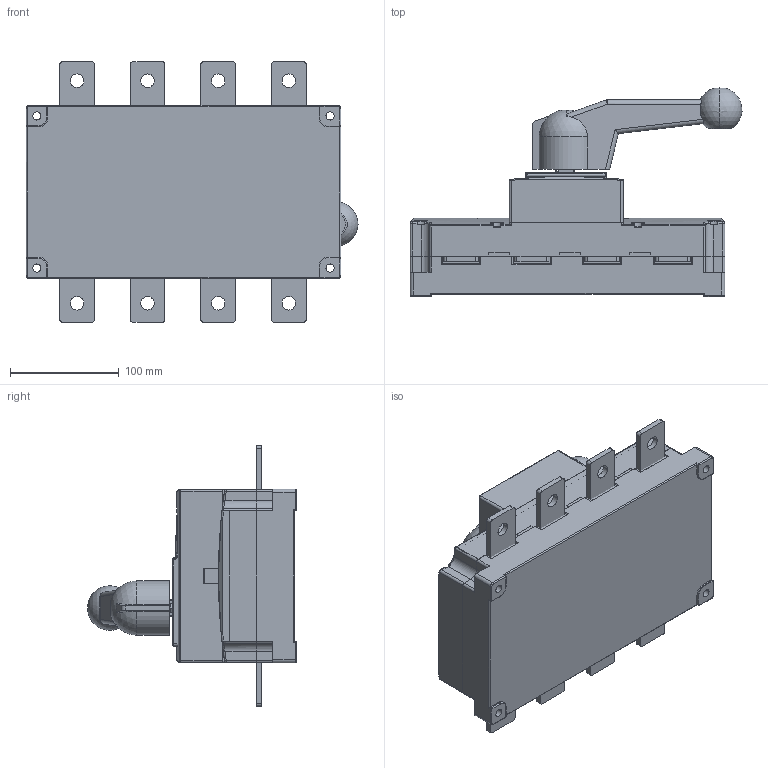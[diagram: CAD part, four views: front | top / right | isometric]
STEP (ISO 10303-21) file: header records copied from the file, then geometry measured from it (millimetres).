
FILE_DESCRIPTION((''),'2;1');
FILE_NAME('NH40-315-4_4P_202403_ASM','2024-04-16T',('zhuanghy'),(''),'CREO PARAMETRIC BY PTC INC, 2018070','CREO PARAMETRIC BY PTC INC, 2018070','');
FILE_SCHEMA(('AUTOMOTIVE_DESIGN { 1 0 10303 214 1 1 1 1 }'));
Length unit declared in the file: millimetre
Products named in the file (14): NH40-630BOCHA_97_1_1_2_3; ASM0004_ASM_3_ASM_ASM_1_1_2_ASM; NH40-315-3_ASM_ASM_1_1_2_ASM; NH40-315_630_202107__1_1_2_3; PRT2015_72_1_1; NH40-630-4-064_46_1_1; NH40-630-310_38_1_1; PRT0047_1_1; PRT0048_1_1; ASM0001_ASM_1_ASM_ASM_1_1_ASM; NH40-315-4_ASM_ASM_1_1_ASM; NH40-315-4_4P_201805_ASM_1_ASM; NH40-315-3_3P_201805_ASM_1_1_2_ASM; NH40-315-4_4P_202403_ASM
Assembly tree (20 placements, depth 6):
  NH40-315-4_4P_202403_ASM
    NH40-315-3_3P_201805_ASM_1_1_2_ASM
      NH40-315-3_ASM_ASM_1_1_2_ASM
        ASM0004_ASM_3_ASM_ASM_1_1_2_ASM
          NH40-630BOCHA_97_1_1_2_3
      NH40-315_630_202107__1_1_2_3
      NH40-315-4_4P_201805_ASM_1_ASM
        NH40-315-4_ASM_ASM_1_1_ASM
          ASM0001_ASM_1_ASM_ASM_1_1_ASM
            PRT2015_72_1_1
            NH40-630-4-064_46_1_1
            NH40-630-310_38_1_1
            PRT0047_1_1  x8
            PRT0048_1_1
Bounding box: 305.73 x 192.5 x 240 mm (x, y, z)
Volume: 4469474.7 mm3; surface area: 469871.3 mm2
Topology: 14 solids, 15 shells, 1137 faces, 2964 edges, 1861 vertices
Faces by surface type: cylinder 465, plane 430, bspline 106, torus 105, sphere 23, cone 8
Entity records: 45221 total; most frequent: CARTESIAN_POINT 20483, ORIENTED_EDGE 5178, DIRECTION 4899, EDGE_CURVE 2589, AXIS2_PLACEMENT_3D 1798, VERTEX_POINT 1623, VECTOR 1303, LINE 1303
